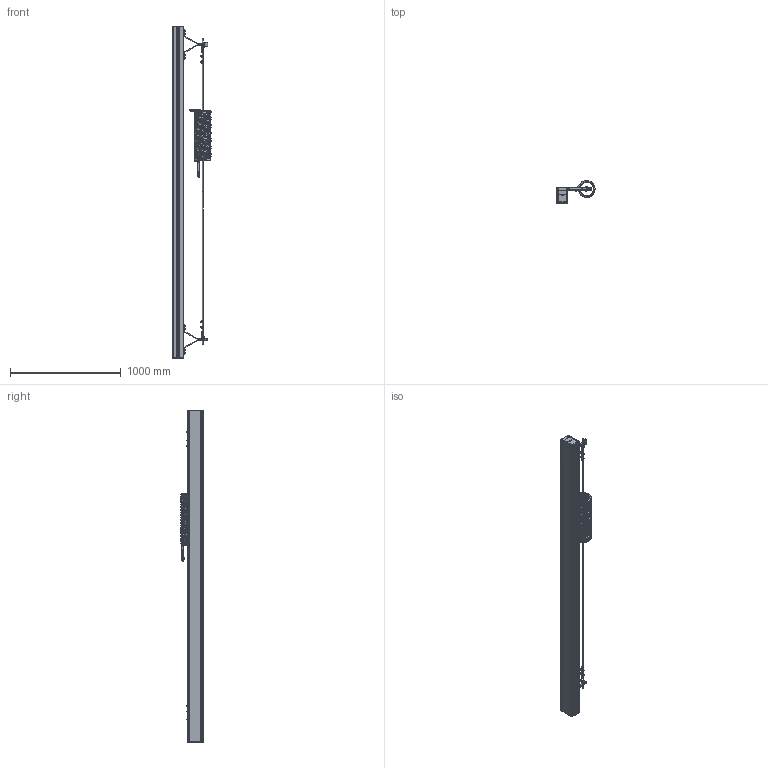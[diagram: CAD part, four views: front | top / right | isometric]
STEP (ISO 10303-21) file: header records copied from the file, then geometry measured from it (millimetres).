
FILE_DESCRIPTION (( 'STEP AP203' ), '1' );
FILE_NAME ('等寢湍蹟唅ァ奪.STEP', '2022-03-15T18:28:56', ( '' ), ( '' ), 'SwSTEP 2.0', 'SolidWorks 2017', '' );
FILE_SCHEMA (( 'CONFIG_CONTROL_DESIGN' ));
Length unit declared in the file: millimetre
Products named in the file (16): ァ奪盓殤; 等寢湍蹟唅ァ奪; 渲染B810020117-0807; 渲染4_X2_7C736C147BA153CA652F67B6_X0_-0807; 渲染KNL12-03-0807; 渲染B020040063-0807; 140-3000; ァ奪盓殤假蚾諉芛; 渲染B810020095-0807; 諉芛傷ァ奪盓殤; 鞠褒楊擘醱蹟邡M6X16_GB_FASTENER_BOLT_HFBSS M6X30-S; ァ詰盓殤嘐隅沭; 渲染SNT-1209-L6-B020041129-0807; 渲染P041411-B810020165 6_X2_6D82585194A24E1D7EF3_X0_4.5m-0807; 渲染Q130020209-0807; 拸諉芛傷ァ奪盓殤
Assembly tree (28 placements, depth 3):
  等寢湍蹟唅ァ奪
    140-3000
    諉芛傷ァ奪盓殤
      ァ詰盓殤嘐隅沭
      鞠褒楊擘醱蹟邡M6X16_GB_FASTENER_BOLT_HFBSS M6X30-S  x4
      ァ奪盓殤假蚾諉芛
    拸諉芛傷ァ奪盓殤
      ァ詰盓殤嘐隅沭
      ァ奪盓殤
      鞠褒楊擘醱蹟邡M6X16_GB_FASTENER_BOLT_HFBSS M6X30-S  x4
    渲染4_X2_7C736C147BA153CA652F67B6_X0_-0807
      渲染P041411-B810020165 6_X2_6D82585194A24E1D7EF3_X0_4.5m-0807
      渲染SNT-1209-L6-B020041129-0807
      渲染B020040063-0807
      渲染KNL12-03-0807
      渲染Q130020209-0807  x2
      渲染B810020095-0807  x2
      渲染B810020117-0807  x4
Bounding box: 344 x 200.5 x 3004 mm (x, y, z)
Volume: 8588538.5 mm3; surface area: 6486223.5 mm2
Topology: 32 solids, 32 shells, 2681 faces, 6158 edges, 3581 vertices
Faces by surface type: cylinder 972, cone 896, plane 548, bspline 116, torus 76, sphere 73
Entity records: 70689 total; most frequent: CARTESIAN_POINT 42649, DIRECTION 5612, ORIENTED_EDGE 5422, EDGE_CURVE 2711, AXIS2_PLACEMENT_3D 2157, VERTEX_POINT 1695, VECTOR 1298, LINE 1298
